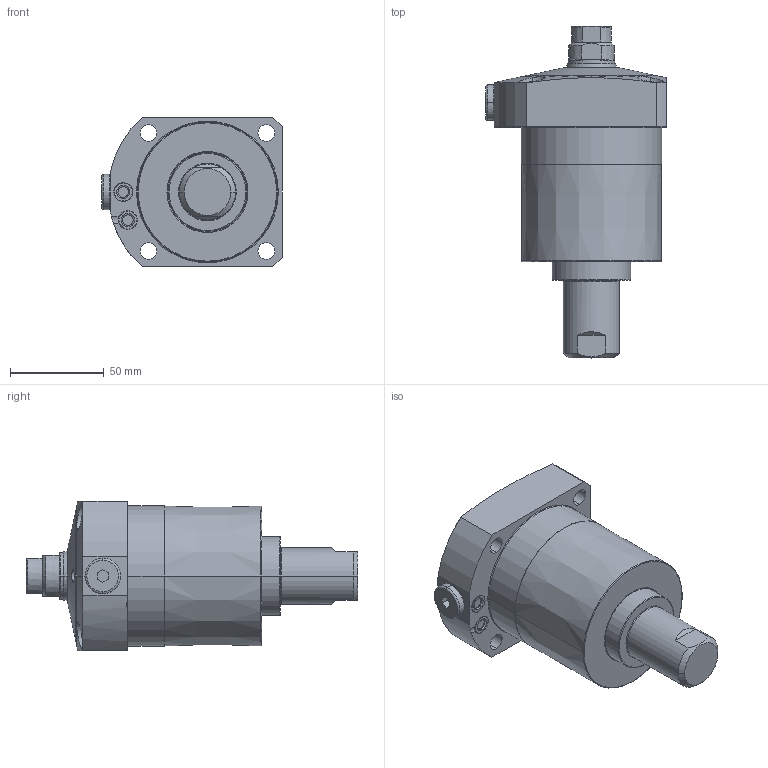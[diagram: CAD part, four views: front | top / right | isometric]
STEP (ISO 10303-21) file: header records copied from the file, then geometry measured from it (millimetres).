
FILE_DESCRIPTION(/* description */ (''),/* implementation_level */ '2;1');
FILE_NAME(/* name */ 'KFSC75-Q.stp',/* time_stamp */ '2026-02-04T15:36:29+08:00',/* author */ (''),/* organization */ (''),/* preprocessor_version */ 'ST-DEVELOPER v16.7',/* originating_system */ 'SIEMENS PLM Software NX 12.0',/* authorisation */ '');
FILE_SCHEMA (('AUTOMOTIVE_DESIGN { 1 0 10303 214 3 1 1 1 }'));
Length unit declared in the file: millimetre
Products named in the file (8): XLC-M16_contactbolt; XLC-M16_o-ring; KFSC75-Q-01; KFSC75-Q-04; KFSC75-Q-02; P7-2; KFSC75-Q-03; LC0753-C-Q_step
Assembly tree (8 placements, depth 3):
  LC0753-C-Q_step
    P7-2  x2
    KFSC75-Q-02
    KFSC75-Q-04
    KFSC75-Q-03
      XLC-M16_o-ring
      XLC-M16_contactbolt
    KFSC75-Q-01
Bounding box: 96.5 x 177.5 x 80 mm (x, y, z)
Volume: 551595.4 mm3; surface area: 59833.4 mm2
Topology: 7 solids, 7 shells, 243 faces, 538 edges, 324 vertices
Faces by surface type: cylinder 72, torus 62, plane 57, cone 50, bspline 2
Entity records: 7042 total; most frequent: CARTESIAN_POINT 1533, DIRECTION 1218, ORIENTED_EDGE 1016, AXIS2_PLACEMENT_3D 530, EDGE_CURVE 508, VERTEX_POINT 310, CIRCLE 292, EDGE_LOOP 264
